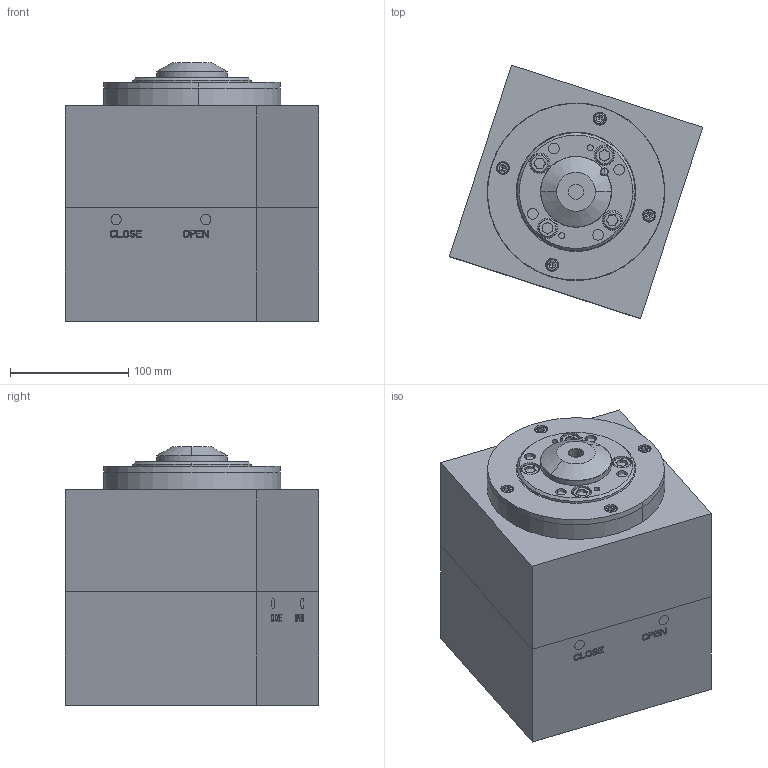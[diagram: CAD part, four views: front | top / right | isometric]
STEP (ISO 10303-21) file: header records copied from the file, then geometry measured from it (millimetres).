
FILE_DESCRIPTION((''),'2;1');
FILE_NAME('99M0011_ASM','2018-06-11T',('alessio.puddu'),('Thermoplay S.p.A.'),'PRO/ENGINEER BY PARAMETRIC TECHNOLOGY CORPORATION, 2014200','PRO/ENGINEER BY PARAMETRIC TECHNOLOGY CORPORATION, 2014200','');
FILE_SCHEMA(('CONFIG_CONTROL_DESIGN'));
Products named in the file (6): MG46096-3D-N-45-R000-JG; MG46-3D-PPU-WEB; MG46-3D-PSUP-WEB; MG46-3D-AC-WEB; MG46-3D-TAGLIO-WEB; 99M0011_ASM
Assembly tree (5 placements, depth 2):
  99M0011_ASM
    MG46096-3D-N-45-R000-JG
    MG46-3D-PPU-WEB
    MG46-3D-PSUP-WEB
    MG46-3D-AC-WEB
    MG46-3D-TAGLIO-WEB
Bounding box: 214.21 x 214.21 x 218.9 mm (x, y, z)
Volume: 6525982.2 mm3; surface area: 586917.8 mm2
Topology: 22 solids, 26 shells, 2618 faces, 6631 edges, 4108 vertices
Faces by surface type: plane 1222, cylinder 773, cone 284, bspline 185, torus 114, sphere 32, revolution 8
Entity records: 107901 total; most frequent: CARTESIAN_POINT 40385, ORIENTED_EDGE 13106, DIRECTION 12194, EDGE_CURVE 6553, AXIS2_PLACEMENT_3D 4332, VERTEX_POINT 4108, VECTOR 3522, LINE 3522
